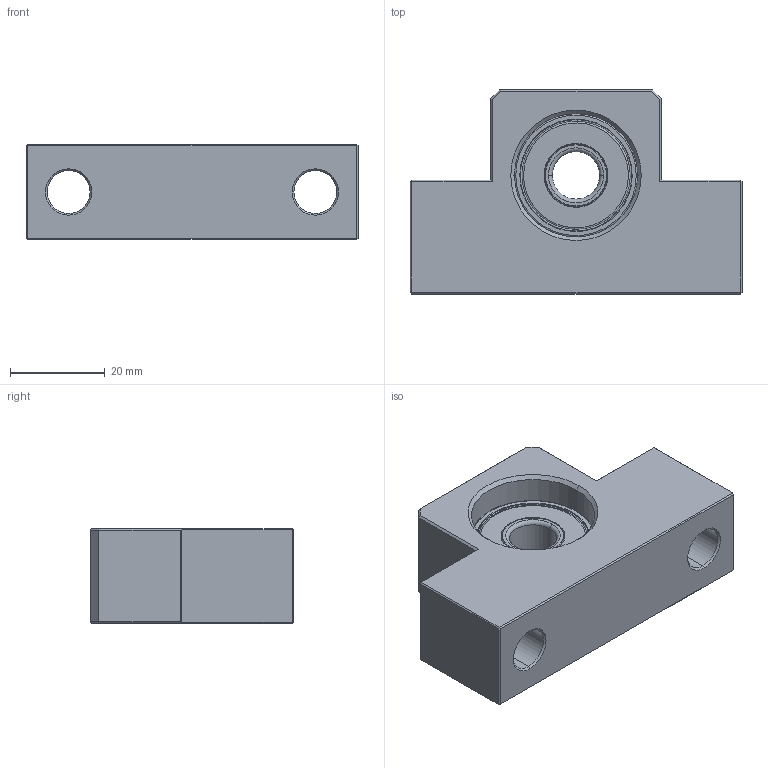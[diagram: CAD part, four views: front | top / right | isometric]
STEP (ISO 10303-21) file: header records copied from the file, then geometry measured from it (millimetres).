
FILE_DESCRIPTION (( 'STEP AP203' ), '1' );
FILE_NAME ('EF12²Õ¦X¥ó.STEP', '2017-12-27T08:25:44', ( '' ), ( '' ), 'SwSTEP 2.0', 'SolidWorks 2017', '' );
FILE_SCHEMA (( 'CONFIG_CONTROL_DESIGN' ));
Length unit declared in the file: millimetre
Products named in the file (1): EF12組合件
Bounding box: 70 x 43 x 20 mm (x, y, z)
Surface area: 12183.7 mm2 (no closed solid volume)
Topology: 0 solids, 6 shells, 119 faces, 280 edges, 172 vertices
Faces by surface type: plane 53, torus 32, cylinder 22, cone 12
Entity records: 3488 total; most frequent: DIRECTION 652, CARTESIAN_POINT 572, ORIENTED_EDGE 540, EDGE_CURVE 280, AXIS2_PLACEMENT_3D 252, VERTEX_POINT 172, VECTOR 148, LINE 148
